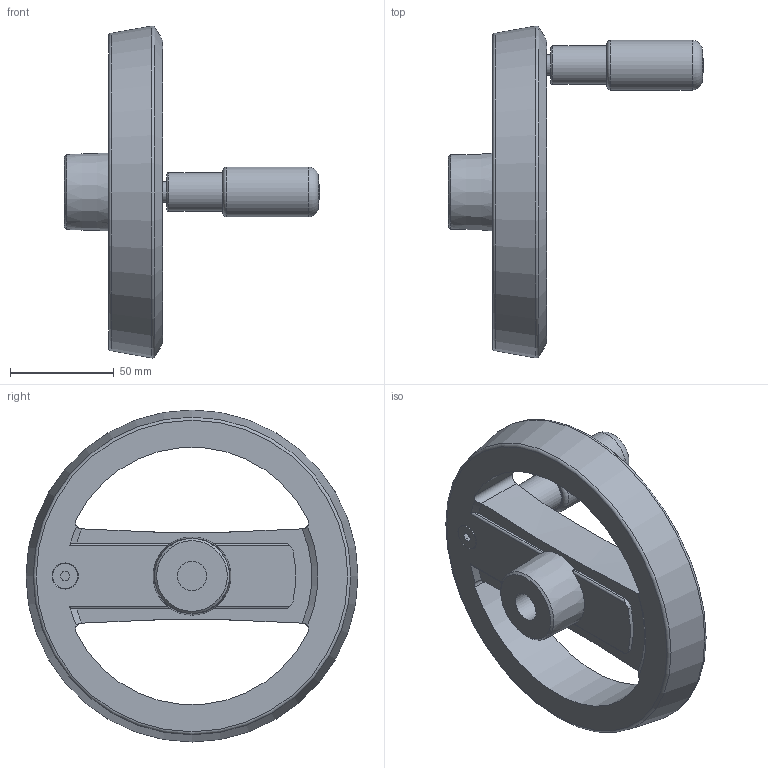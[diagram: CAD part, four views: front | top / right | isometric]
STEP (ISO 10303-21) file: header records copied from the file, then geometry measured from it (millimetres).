
FILE_DESCRIPTION( ( 'STEP AP203' ), '1' );
FILE_NAME( 'C:/Temp/Ganter_Step_05_03_2020/data/1_3/gn_924_3/gn_924_3_b/Handwheel with retractable handle GN 924.3-160-B14-R-SR (activated).stp', '2020-03-05T10:40:54', ( 'License CC BY-ND 4.0' ), ( 'CADENAS' ), ' ', 'PARTsolutions', ' ' );
FILE_SCHEMA( ( 'CONFIG_CONTROL_DESIGN' ) );
Length unit declared in the file: millimetre
Products named in the file (3): Handwheel with retractable handle GN 924.3-160-B14-R-SR (activated); _Umleggriff-Handrad GN 924.3-160-B14-R-SR-1; _Umleggriff-Handrad GN 924.3-160-B14-R-SR-2
Assembly tree (2 placements, depth 2):
  Handwheel with retractable handle GN 924.3-160-B14-R-SR (activated)
    _Umleggriff-Handrad GN 924.3-160-B14-R-SR-1
    _Umleggriff-Handrad GN 924.3-160-B14-R-SR-2
Bounding box: 122.7 x 159.68 x 159.68 mm (x, y, z)
Volume: 293532.6 mm3; surface area: 65471.9 mm2
Topology: 2 solids, 2 shells, 108 faces, 280 edges, 180 vertices
Faces by surface type: plane 46, cylinder 41, cone 12, torus 7, sphere 2
Full cylindrical faces by diameter (mm): 4 x4, 5 x1, 10 x1, 12 x1, 14 x1, 18.5 x1, 24 x1, 25 x1, 25.6 x1
Entity records: 3560 total; most frequent: CARTESIAN_POINT 951, DIRECTION 522, ORIENTED_EDGE 488, EDGE_CURVE 244, AXIS2_PLACEMENT_3D 212, VERTEX_POINT 175, EDGE_LOOP 148, FACE_OUTER_BOUND 127
